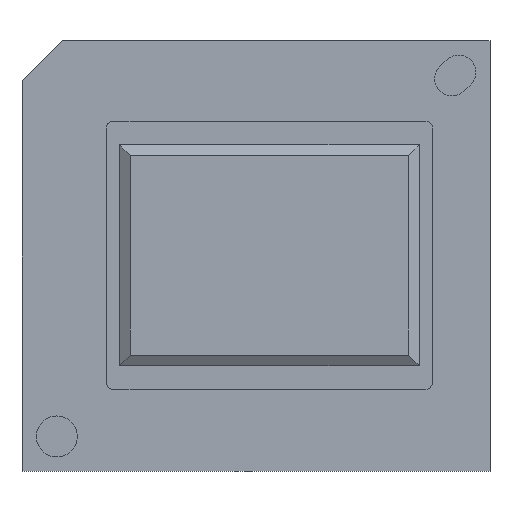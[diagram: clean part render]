
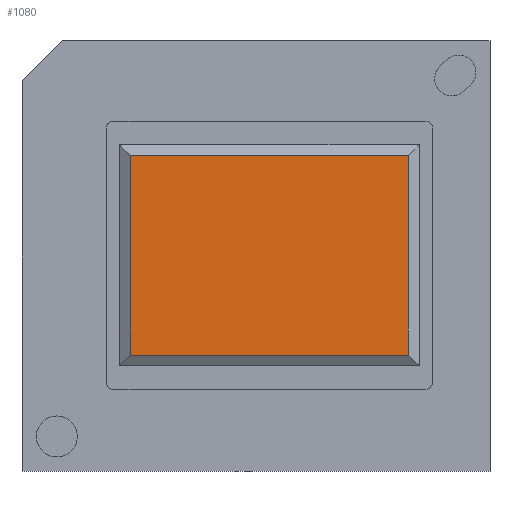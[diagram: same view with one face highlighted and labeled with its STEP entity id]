
A CAD part, top view. The second image highlights one B-rep face of the part: STEP entity #1080.
In plain terms, the highlighted planar face has unit normal (0, 0, 1) as drawn and (0, 1, 0) by its records, which use the part's own axes.
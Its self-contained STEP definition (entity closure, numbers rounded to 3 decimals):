
#1080 = ADVANCED_FACE ( 'NONE', ( #17185 ), #16418, .F. ) ;
#5156 = DIRECTION ( 'NONE',  ( 0., -1., 0. ) ) ;
#16418 = PLANE ( 'NONE',  #66976 ) ;
#16531 = LINE ( 'NONE', #45606, #28077 ) ;
#16895 = DIRECTION ( 'NONE',  ( 0., 0., -1. ) ) ;
#16978 = ORIENTED_EDGE ( 'NONE', *, *, #40137, .T. ) ;
#17185 = FACE_OUTER_BOUND ( 'NONE', #36149, .T. ) ;
#17624 = LINE ( 'NONE', #20004, #29316 ) ;
#19317 = DIRECTION ( 'NONE',  ( 0., 0., -1. ) ) ;
#20004 = CARTESIAN_POINT ( 'NONE',  ( -10.4, 1.1, 7.463 ) ) ;
#20301 = CARTESIAN_POINT ( 'NONE',  ( -10.4, 1.1, -7.463 ) ) ;
#22130 = DIRECTION ( 'NONE',  ( 1., 0., 0. ) ) ;
#23131 = CARTESIAN_POINT ( 'NONE',  ( -10.4, 1.1, -7.463 ) ) ;
#27845 = EDGE_CURVE ( 'NONE', #69022, #42864, #58875, .T. ) ;
#28077 = VECTOR ( 'NONE', #22130, 1000. ) ;
#29316 = VECTOR ( 'NONE', #71830, 1000. ) ;
#30061 = VECTOR ( 'NONE', #43763, 1000. ) ;
#35985 = CARTESIAN_POINT ( 'NONE',  ( 10.4, 1.1, 7.463 ) ) ;
#36149 = EDGE_LOOP ( 'NONE', ( #62068, #16978, #72604, #49157 ) ) ;
#36199 = CARTESIAN_POINT ( 'NONE',  ( 10.4, 1.1, 7.463 ) ) ;
#36620 = EDGE_CURVE ( 'NONE', #42864, #46952, #17624, .T. ) ;
#40137 = EDGE_CURVE ( 'NONE', #46952, #47994, #16531, .T. ) ;
#42864 = VERTEX_POINT ( 'NONE', #63922 ) ;
#43763 = DIRECTION ( 'NONE',  ( -1., 0., 0. ) ) ;
#45606 = CARTESIAN_POINT ( 'NONE',  ( -10.4, 1.1, 7.463 ) ) ;
#46545 = CARTESIAN_POINT ( 'NONE',  ( -10.4, 1.1, 7.463 ) ) ;
#46952 = VERTEX_POINT ( 'NONE', #46545 ) ;
#47994 = VERTEX_POINT ( 'NONE', #35985 ) ;
#49157 = ORIENTED_EDGE ( 'NONE', *, *, #27845, .T. ) ;
#50480 = VECTOR ( 'NONE', #19317, 1000. ) ;
#52341 = EDGE_CURVE ( 'NONE', #47994, #69022, #63034, .T. ) ;
#58875 = LINE ( 'NONE', #20301, #30061 ) ;
#62068 = ORIENTED_EDGE ( 'NONE', *, *, #36620, .T. ) ;
#63034 = LINE ( 'NONE', #36199, #50480 ) ;
#63837 = CARTESIAN_POINT ( 'NONE',  ( 10.4, 1.1, -7.463 ) ) ;
#63922 = CARTESIAN_POINT ( 'NONE',  ( -10.4, 1.1, -7.463 ) ) ;
#66976 = AXIS2_PLACEMENT_3D ( 'NONE', #23131, #5156, #16895 ) ;
#69022 = VERTEX_POINT ( 'NONE', #63837 ) ;
#71830 = DIRECTION ( 'NONE',  ( 0., 0., 1. ) ) ;
#72604 = ORIENTED_EDGE ( 'NONE', *, *, #52341, .T. ) ;
